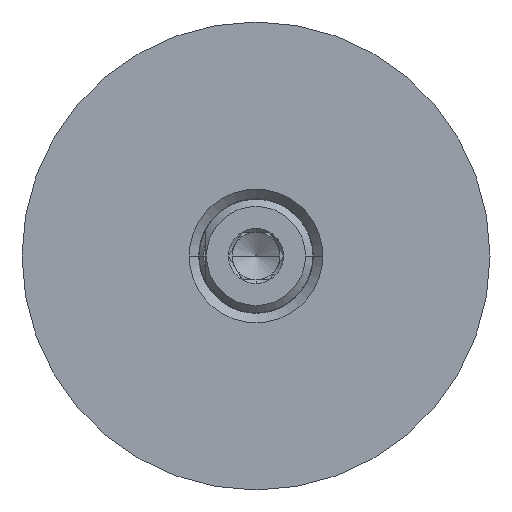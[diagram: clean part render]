
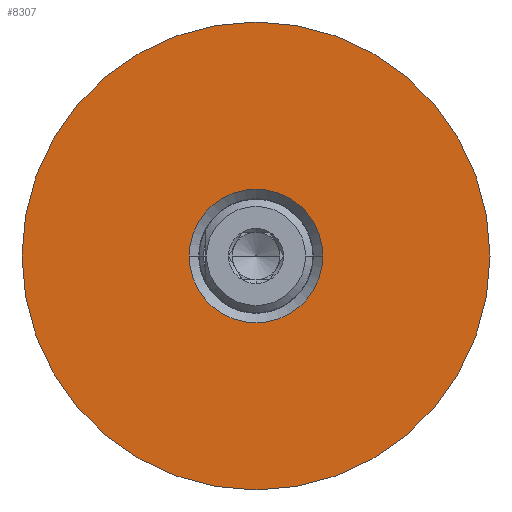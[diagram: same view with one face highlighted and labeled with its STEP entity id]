
A CAD part, left-side view. The second image highlights one B-rep face of the part: STEP entity #8307.
In plain terms, the highlighted planar face has unit normal (-1, 0, 0).
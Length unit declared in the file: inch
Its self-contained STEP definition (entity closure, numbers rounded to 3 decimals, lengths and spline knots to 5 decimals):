
#8115=CARTESIAN_POINT('',(0.,-0.2185,2.61));
#8116=VERTEX_POINT('',#8115);
#8124=CARTESIAN_POINT('',(0.,0.2185,2.61));
#8125=VERTEX_POINT('',#8124);
#8132=CARTESIAN_POINT('',(0.,0.0,2.61));
#8133=DIRECTION('',(-1.0,0.0,0.0));
#8134=DIRECTION('',(0.0,-1.0,0.0));
#8135=AXIS2_PLACEMENT_3D('',#8132,#8133,#8134);
#8136=CIRCLE('',#8135,0.2185);
#8137=EDGE_CURVE('',#8125,#8116,#8136,.T.);
#8149=CARTESIAN_POINT('',(0.,-0.765,2.61));
#8150=VERTEX_POINT('',#8149);
#8166=CARTESIAN_POINT('',(0.,0.765,2.61));
#8167=VERTEX_POINT('',#8166);
#8174=CARTESIAN_POINT('',(0.,0.0,2.61));
#8175=DIRECTION('',(-1.0,0.0,0.0));
#8176=DIRECTION('',(0.0,-1.0,0.0));
#8177=AXIS2_PLACEMENT_3D('',#8174,#8175,#8176);
#8178=CIRCLE('',#8177,0.765);
#8179=EDGE_CURVE('',#8150,#8167,#8178,.T.);
#8276=CARTESIAN_POINT('',(0.,0.0,2.61));
#8277=DIRECTION('',(-1.0,0.0,0.0));
#8278=DIRECTION('',(0.0,-1.0,0.0));
#8279=AXIS2_PLACEMENT_3D('',#8276,#8277,#8278);
#8280=CIRCLE('',#8279,0.765);
#8281=EDGE_CURVE('',#8167,#8150,#8280,.T.);
#8288=CARTESIAN_POINT('',(0.,-0.49175,2.61));
#8289=DIRECTION('',(-1.0,0.0,0.0));
#8290=DIRECTION('',(0.0,0.0,1.0));
#8291=AXIS2_PLACEMENT_3D('',#8288,#8289,#8290);
#8292=PLANE('',#8291);
#8293=ORIENTED_EDGE('',*,*,#8179,.T.);
#8294=ORIENTED_EDGE('',*,*,#8281,.T.);
#8295=EDGE_LOOP('',(#8293,#8294));
#8296=FACE_OUTER_BOUND('',#8295,.T.);
#8297=CARTESIAN_POINT('',(0.,0.0,2.61));
#8298=DIRECTION('',(-1.0,0.0,0.0));
#8299=DIRECTION('',(0.0,-1.0,0.0));
#8300=AXIS2_PLACEMENT_3D('',#8297,#8298,#8299);
#8301=CIRCLE('',#8300,0.2185);
#8302=EDGE_CURVE('',#8116,#8125,#8301,.T.);
#8303=ORIENTED_EDGE('',*,*,#8302,.F.);
#8304=ORIENTED_EDGE('',*,*,#8137,.F.);
#8305=EDGE_LOOP('',(#8303,#8304));
#8306=FACE_BOUND('',#8305,.T.);
#8307=ADVANCED_FACE('',(#8296,#8306),#8292,.T.);
